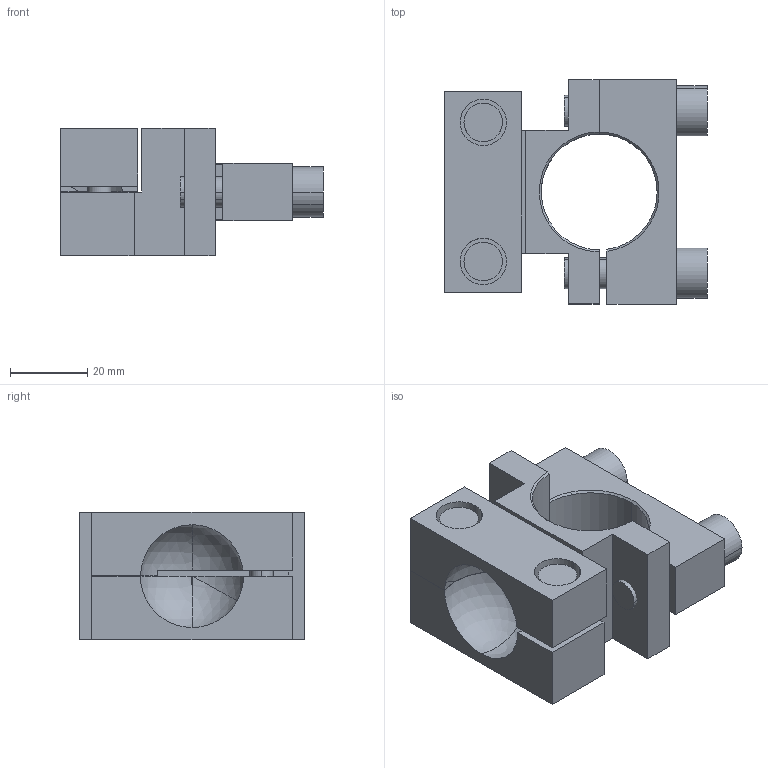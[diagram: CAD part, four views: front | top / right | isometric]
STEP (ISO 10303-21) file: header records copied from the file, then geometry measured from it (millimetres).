
FILE_DESCRIPTION(('STEP AP214'),'1');
FILE_NAME('EGT190_1706246_SAUGER_UND_INITIATORANB.CATPart.stp','2015-09-14T13:12:02',('3D-Tool'),(' '),'Spatial InterOp 3D',' ',' ');
FILE_SCHEMA(('automotive_design'));
Length unit declared in the file: millimetre
Products named in the file (7): EGT190_1706246_SAUGER_UND_INITIATORANB|EGT190_SAUGER_UND_INITIATORANB|Chamfer.1; EGT190_1706246_SAUGER_UND_INITIATORANB|Kugelaufnahme|Bohrbearbeitung; EGT190_1706246_SAUGER_UND_INITIATORANB|Schelle_RD30|Chamfer.2; 1; 2; 3; 4
Bounding box: 68 x 58 x 33 mm (x, y, z)
Volume: 53250.8 mm3; surface area: 24915.1 mm2
Topology: 7 solids, 7 shells, 119 faces, 301 edges, 198 vertices
Faces by surface type: cylinder 59, plane 46, sphere 8, cone 6
Entity records: 5039 total; most frequent: CARTESIAN_POINT 962, DIRECTION 663, ORIENTED_EDGE 592, EDGE_CURVE 296, AXIS2_PLACEMENT_3D 259, VERTEX_POINT 198, LINE 145, VECTOR 145
